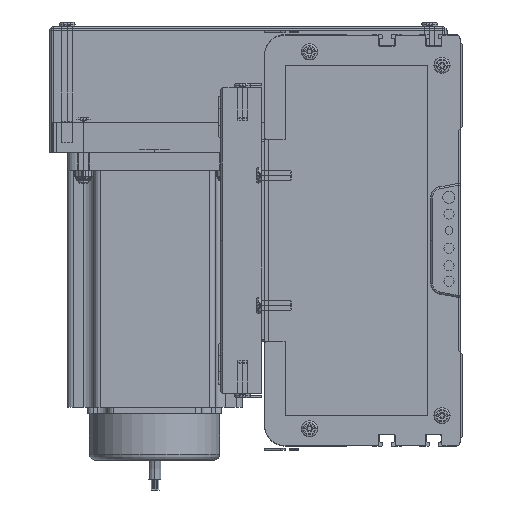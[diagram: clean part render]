
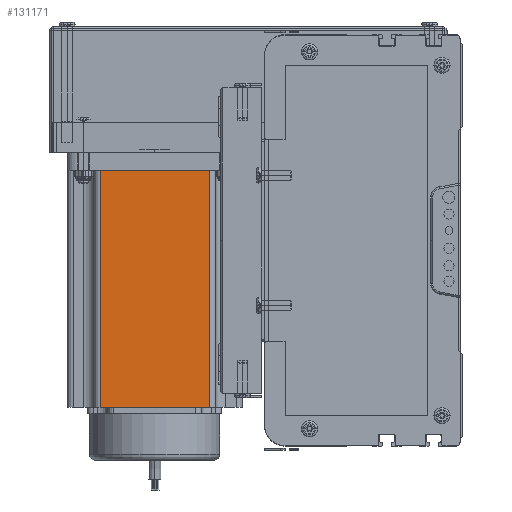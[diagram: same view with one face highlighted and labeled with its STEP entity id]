
A CAD part, left-side view. The second image highlights one B-rep face of the part: STEP entity #131171.
In plain terms, the highlighted planar face has unit normal (-1, 0, 0) as drawn and (0, -1, 0) by its records, which use the part's own axes.
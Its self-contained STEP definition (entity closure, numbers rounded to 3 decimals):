
#47388 = CARTESIAN_POINT ( 'NONE',  ( 69.74, 0., 116.5 ) ) ;
#47454 = DIRECTION ( 'NONE',  ( 1., 0., 0. ) ) ;
#47455 = VECTOR ( 'NONE', #47454, 1000. ) ;
#47457 = CARTESIAN_POINT ( 'NONE',  ( 0., 0., 0. ) ) ;
#47458 = LINE ( 'NONE', #47457, #47455 ) ;
#47888 = CARTESIAN_POINT ( 'NONE',  ( 16.16, 0., 0. ) ) ;
#47904 = CARTESIAN_POINT ( 'NONE',  ( 0., 0., 116.5 ) ) ;
#47905 = LINE ( 'NONE', #47904, #48119 ) ;
#47906 = DIRECTION ( 'NONE',  ( 0., 0., 1. ) ) ;
#47915 = DIRECTION ( 'NONE',  ( 1., 0., 0. ) ) ;
#47997 = CARTESIAN_POINT ( 'NONE',  ( 69.74, 0., 0. ) ) ;
#48059 = VECTOR ( 'NONE', #47906, 1000. ) ;
#48062 = LINE ( 'NONE', #48066, #48059 ) ;
#48066 = CARTESIAN_POINT ( 'NONE',  ( 69.74, 0., 116.5 ) ) ;
#48089 = CARTESIAN_POINT ( 'NONE',  ( 16.16, 0., 116.5 ) ) ;
#48090 = LINE ( 'NONE', #48089, #48112 ) ;
#48111 = DIRECTION ( 'NONE',  ( 0., 0., -1. ) ) ;
#48112 = VECTOR ( 'NONE', #48111, 1000. ) ;
#48119 = VECTOR ( 'NONE', #47915, 1000. ) ;
#48145 = FACE_OUTER_BOUND ( 'NONE', #130615, .T. ) ;
#48178 = CARTESIAN_POINT ( 'NONE',  ( 0., 0., 116.5 ) ) ;
#48315 = DIRECTION ( 'NONE',  ( 0., 0., 1. ) ) ;
#48406 = DIRECTION ( 'NONE',  ( 0., 1., 0. ) ) ;
#48458 = PLANE ( 'NONE',  #48468 ) ;
#48468 = AXIS2_PLACEMENT_3D ( 'NONE', #48178, #48406, #48315 ) ;
#48737 = CARTESIAN_POINT ( 'NONE',  ( 16.16, 0., 116.5 ) ) ;
#130601 = VERTEX_POINT ( 'NONE', #47388 ) ;
#130615 = EDGE_LOOP ( 'NONE', ( #130981, #130995, #131337, #130992 ) ) ;
#130805 = EDGE_CURVE ( 'NONE', #131580, #130834, #47458, .T. ) ;
#130834 = VERTEX_POINT ( 'NONE', #47997 ) ;
#130978 = EDGE_CURVE ( 'NONE', #130834, #130601, #48062, .T. ) ;
#130981 = ORIENTED_EDGE ( 'NONE', *, *, #130805, .T. ) ;
#130992 = ORIENTED_EDGE ( 'NONE', *, *, #131005, .T. ) ;
#130995 = ORIENTED_EDGE ( 'NONE', *, *, #130978, .T. ) ;
#130998 = EDGE_CURVE ( 'NONE', #131575, #130601, #47905, .T. ) ;
#131005 = EDGE_CURVE ( 'NONE', #131575, #131580, #48090, .T. ) ;
#131171 = ADVANCED_FACE ( 'NONE', ( #48145 ), #48458, .F. ) ;
#131337 = ORIENTED_EDGE ( 'NONE', *, *, #130998, .F. ) ;
#131575 = VERTEX_POINT ( 'NONE', #48737 ) ;
#131580 = VERTEX_POINT ( 'NONE', #47888 ) ;
